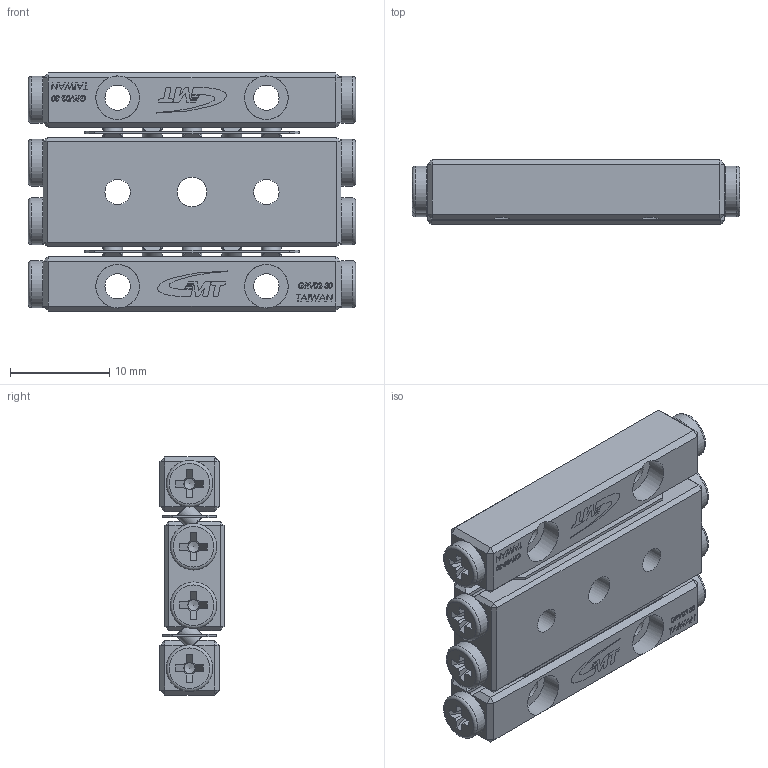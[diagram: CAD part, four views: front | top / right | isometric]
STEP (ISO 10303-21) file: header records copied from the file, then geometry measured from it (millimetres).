
FILE_DESCRIPTION (( 'STEP AP203' ), '1' );
FILE_NAME ('GRD02-30.STEP', '2023-08-22T06:24:01', ( '' ), ( '' ), 'SwSTEP 2.0', 'SolidWorks 2019', '' );
FILE_SCHEMA (( 'CONFIG_CONTROL_DESIGN' ));
Length unit declared in the file: millimetre
Products named in the file (4): GRD02-30; GRV02-30-模糊化保持器組; GRV02-30-模糊化軌道; GRD02-30-模糊化中軌
Assembly tree (5 placements, depth 2):
  GRD02-30
    GRD02-30-模糊化中軌
    GRV02-30-模糊化軌道  x2
    GRV02-30-模糊化保持器組  x2
Bounding box: 33 x 6.5 x 24 mm (x, y, z)
Volume: 3710.2 mm3; surface area: 3886.7 mm2
Topology: 5 solids, 5 shells, 1116 faces, 2793 edges, 1782 vertices
Faces by surface type: plane 771, bspline 192, cone 72, cylinder 45, torus 36
Full cylindrical faces by diameter (mm): 2.55 x6, 3 x1, 4.4 x6, 4.7 x8
Entity records: 29601 total; most frequent: CARTESIAN_POINT 12346, ORIENTED_EDGE 3690, DIRECTION 2929, EDGE_CURVE 1845, LINE 1263, VECTOR 1263, VERTEX_POINT 1188, EDGE_LOOP 861
